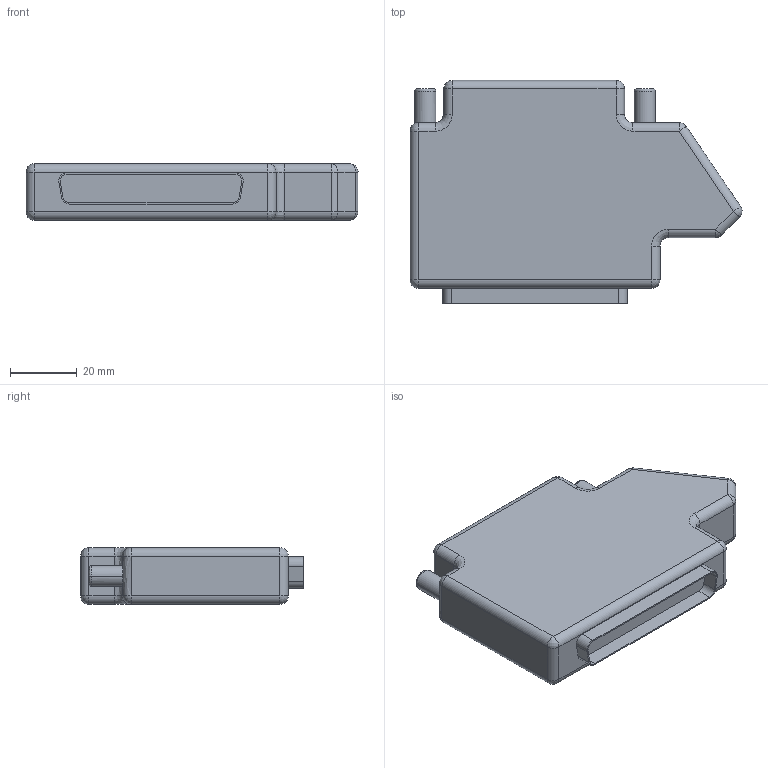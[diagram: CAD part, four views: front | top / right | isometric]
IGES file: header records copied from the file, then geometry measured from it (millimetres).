
Start section:  PTC IGES file: conn_crio_db_37_tb.igs
Global section: file name: conn_crio_db_37_tb.igs; native system: Pro/ENGINEER by Parametric Technology Corporation; preprocessor: 2006080; author: chrisj; organization: Unknown; date: 070125.114908; units: inch
Bounding box: 99.84 x 67.06 x 17.02 mm (x, y, z)
Surface area: 17114.7 mm2 (no closed solid volume)
Topology: 0 solids, 0 shells, 104 faces, 450 edges, 450 vertices
Faces by surface type: revolution 75, bspline 29
